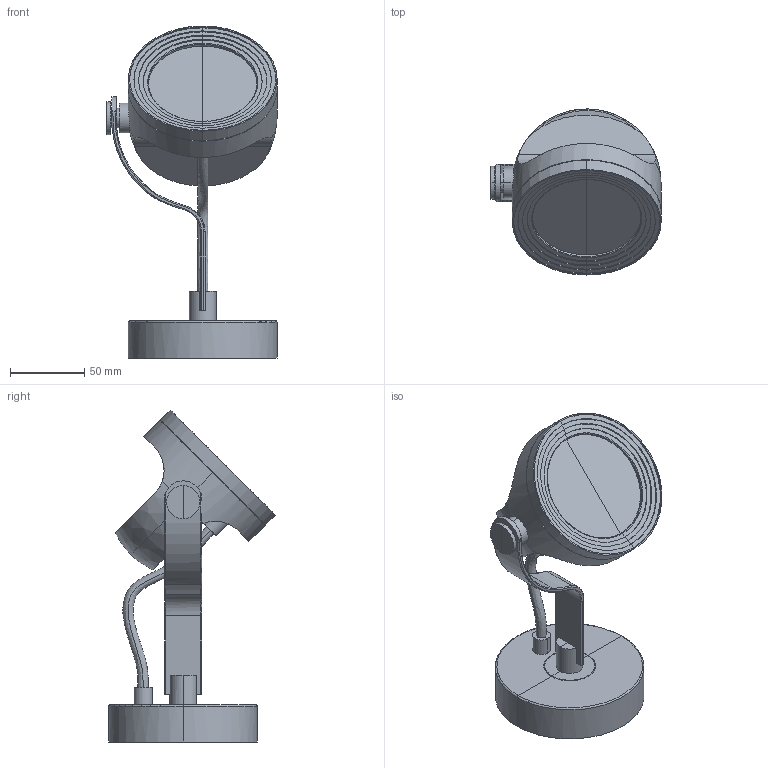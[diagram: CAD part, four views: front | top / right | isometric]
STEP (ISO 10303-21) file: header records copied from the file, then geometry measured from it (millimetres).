
FILE_DESCRIPTION(/* description */ (''),/* implementation_level */ '2;1');
FILE_NAME(/* name */ 'C:\Users\Franco Sartori E\Documents\FARO\DUPLICADO\Modelos\01_Digitalizados\PRIORIZACION 2D\1_ALFA\03_Publicación\70026.stp',/* time_stamp */ '2020-12-03T12:58:47+01:00',/* author */ ('Franco Sartori E'),/* organization */ (''),/* preprocessor_version */ 'ST-DEVELOPER v18.1',/* originating_system */ 'AutoCAD Mechanical',/* authorisation */ '');
FILE_SCHEMA (('AUTOMOTIVE_DESIGN { 1 0 10303 214 3 1 1 }'));
Length unit declared in the file: millimetre
Products named in the file (2): Product; 70025_70026 - Lamp-459885-Export
Assembly tree (1 placements, depth 2):
  Product
    70025_70026 - Lamp-459885-Export
Bounding box: 114.42 x 111.93 x 223.25 mm (x, y, z)
Volume: 415499.4 mm3; surface area: 109758.8 mm2
Topology: 9 solids, 9 shells, 164 faces, 355 edges, 205 vertices
Faces by surface type: plane 75, cylinder 69, torus 16, bspline 2, sphere 2
Entity records: 6374 total; most frequent: CARTESIAN_POINT 2893, ORIENTED_EDGE 710, DIRECTION 698, EDGE_CURVE 355, AXIS2_PLACEMENT_3D 277, VERTEX_POINT 205, EDGE_LOOP 166, FACE_OUTER_BOUND 164
